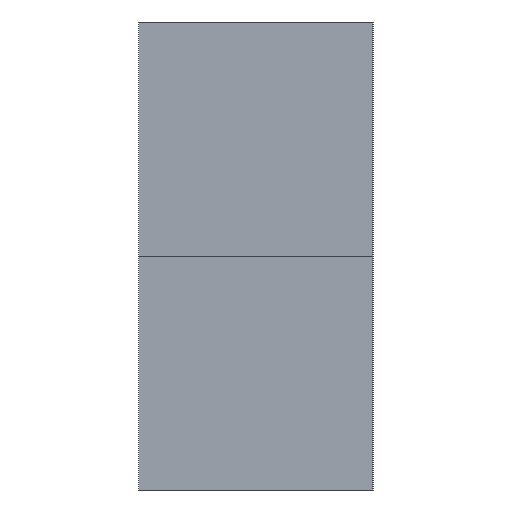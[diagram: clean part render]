
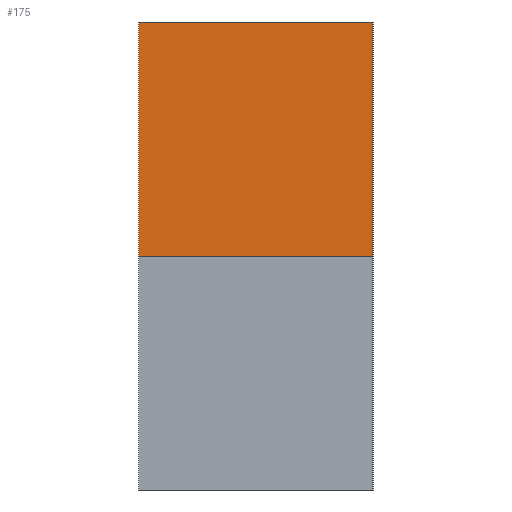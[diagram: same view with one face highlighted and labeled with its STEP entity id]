
A CAD part, left-side view. The second image highlights one B-rep face of the part: STEP entity #175.
In plain terms, the highlighted planar face has unit normal (-1, 0, 0).
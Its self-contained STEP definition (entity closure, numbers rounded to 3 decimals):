
#43 = EDGE_CURVE('',#44,#46,#48,.T.);
#44 = VERTEX_POINT('',#45);
#45 = CARTESIAN_POINT('',(-317.,-10.,-10.));
#46 = VERTEX_POINT('',#47);
#47 = CARTESIAN_POINT('',(-317.,10.,-10.));
#48 = LINE('',#49,#50);
#49 = CARTESIAN_POINT('',(-317.,10.,-10.));
#50 = VECTOR('',#51,1.);
#51 = DIRECTION('',(-0.,1.,0.));
#83 = EDGE_CURVE('',#46,#84,#86,.T.);
#84 = VERTEX_POINT('',#85);
#85 = CARTESIAN_POINT('',(-317.,10.,10.));
#86 = LINE('',#87,#88);
#87 = CARTESIAN_POINT('',(-317.,10.,10.));
#88 = VECTOR('',#89,1.);
#89 = DIRECTION('',(-0.,-0.,1.));
#114 = EDGE_CURVE('',#84,#115,#117,.T.);
#115 = VERTEX_POINT('',#116);
#116 = CARTESIAN_POINT('',(-317.,-10.,10.));
#117 = LINE('',#118,#119);
#118 = CARTESIAN_POINT('',(-317.,10.,10.));
#119 = VECTOR('',#120,1.);
#120 = DIRECTION('',(0.,-1.,0.));
#145 = EDGE_CURVE('',#115,#44,#146,.T.);
#146 = LINE('',#147,#148);
#147 = CARTESIAN_POINT('',(-317.,-10.,10.));
#148 = VECTOR('',#149,1.);
#149 = DIRECTION('',(0.,0.,-1.));
#175 = ADVANCED_FACE('',(#176),#182,.F.);
#176 = FACE_BOUND('',#177,.T.);
#177 = EDGE_LOOP('',(#178,#179,#180,#181));
#178 = ORIENTED_EDGE('',*,*,#43,.F.);
#179 = ORIENTED_EDGE('',*,*,#145,.F.);
#180 = ORIENTED_EDGE('',*,*,#114,.F.);
#181 = ORIENTED_EDGE('',*,*,#83,.F.);
#182 = PLANE('',#183);
#183 = AXIS2_PLACEMENT_3D('',#184,#185,#186);
#184 = CARTESIAN_POINT('',(-317.,0.,0.));
#185 = DIRECTION('',(1.,0.,0.));
#186 = DIRECTION('',(0.,0.,-1.));
